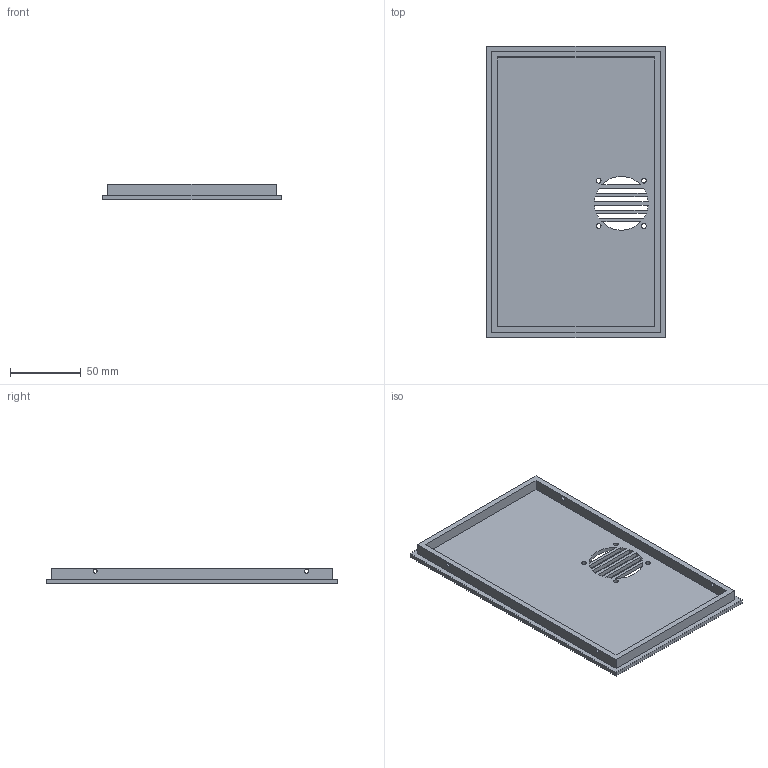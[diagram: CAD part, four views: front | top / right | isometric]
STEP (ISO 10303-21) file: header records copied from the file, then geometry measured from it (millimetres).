
FILE_DESCRIPTION(('Open CASCADE Model'),'2;1');
FILE_NAME('Open CASCADE Shape Model','2026-07-28T11:12:05',('Author'),( 'Open CASCADE'),'Open CASCADE STEP processor 7.9','Open CASCADE 7.9' ,'Unknown');
FILE_SCHEMA(('AUTOMOTIVE_DESIGN { 1 0 10303 214 1 1 1 1 }'));
Length unit declared in the file: millimetre
Products named in the file (1): Open CASCADE STEP translator 7.9 2
Bounding box: 126 x 206 x 10.8 mm (x, y, z)
Volume: 94805.4 mm3; surface area: 63545.8 mm2
Topology: 1 solids, 1 shells, 44 faces, 120 edges, 80 vertices
Faces by surface type: plane 26, cylinder 18
Full cylindrical faces by diameter (mm): 2.8 x4, 3.4 x4
Entity records: 3028 total; most frequent: CARTESIAN_POINT 609, DIRECTION 432, LINE 248, VECTOR 248, ORIENTED_EDGE 240, PCURVE 240, DEFINITIONAL_REPRESENTATION 240, EDGE_CURVE 120
